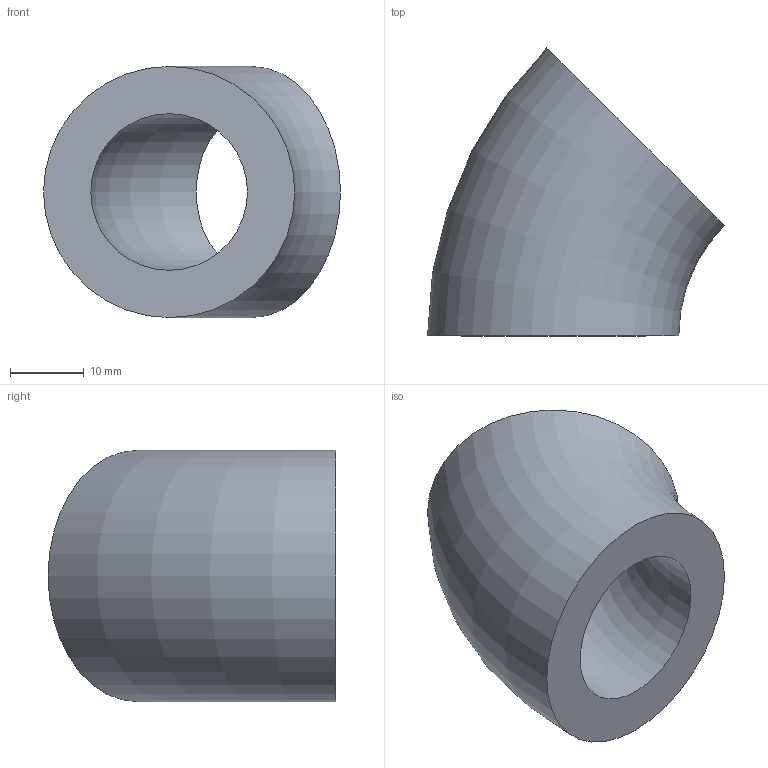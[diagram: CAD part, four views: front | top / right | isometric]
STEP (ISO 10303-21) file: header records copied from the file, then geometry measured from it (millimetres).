
FILE_DESCRIPTION(/* description */ (''),/* implementation_level */ '2;1');
FILE_NAME(/* name */ 'C:\Users\D\Documents\Inventor\HP\JIS\配管\エルボ ロング 45°\Sch160\Elbow45-long-25A-Sch160.stp',/* time_stamp */ '2022-06-08T17:06:22+09:00',/* author */ ('D'),/* organization */ (''),/* preprocessor_version */ 'ST-DEVELOPER v18',/* originating_system */ 'Autodesk Inventor 2020',/* authorisation */ '');
FILE_SCHEMA (('AUTOMOTIVE_DESIGN { 1 0 10303 214 3 1 1 }'));
Length unit declared in the file: millimetre
Products named in the file (1): Elbow-long-90-15A-SGP
Bounding box: 40.18 x 38.96 x 34 mm (x, y, z)
Volume: 16605.6 mm3; surface area: 6299.1 mm2
Topology: 1 solids, 1 shells, 4 faces, 10 edges, 8 vertices
Faces by surface type: torus 2, plane 2
Entity records: 181 total; most frequent: DIRECTION 30, CARTESIAN_POINT 23, ORIENTED_EDGE 20, AXIS2_PLACEMENT_3D 15, CIRCLE 10, EDGE_CURVE 10, VERTEX_POINT 8, EDGE_LOOP 6
